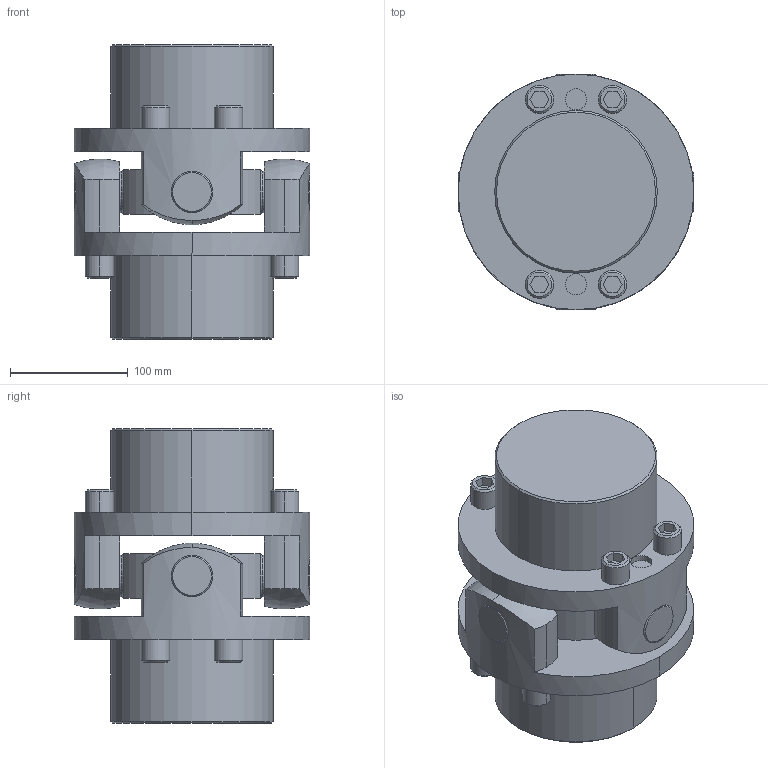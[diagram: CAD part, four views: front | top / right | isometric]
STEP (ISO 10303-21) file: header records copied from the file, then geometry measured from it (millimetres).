
FILE_DESCRIPTION((''),'2;1');
FILE_NAME('UCR-200.stp','2015-11-02T07:16:02',(''),(''),'AutoCAD STEP 2000i','AutoCAD 2000i',', , ');
FILE_SCHEMA(('CONFIG_CONTROL_DESIGN'));
Length unit declared in the file: millimetre
Products named in the file (3): UCR-200; 忣兜1; UCR-20002
Assembly tree (2 placements, depth 2):
  UCR-200
    忣兜1
    UCR-20002
Bounding box: 200 x 200 x 250 mm (x, y, z)
Volume: 4345771.3 mm3; surface area: 306638.8 mm2
Topology: 1 solids, 1 shells, 226 faces, 532 edges, 340 vertices
Faces by surface type: plane 92, cylinder 86, cone 32, bspline 8, sphere 8
Entity records: 7326 total; most frequent: CARTESIAN_POINT 1933, DIRECTION 1150, ORIENTED_EDGE 1052, EDGE_CURVE 526, AXIS2_PLACEMENT_3D 433, VERTEX_POINT 328, VECTOR 284, LINE 284
